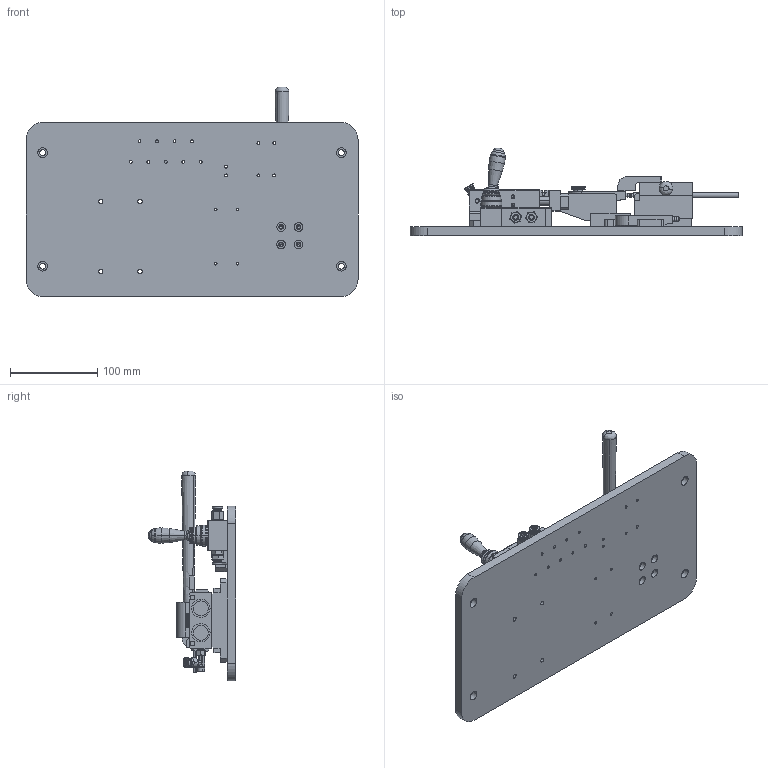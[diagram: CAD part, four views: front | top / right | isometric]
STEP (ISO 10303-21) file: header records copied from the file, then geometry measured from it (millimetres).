
FILE_DESCRIPTION (( 'STEP AP214' ), '1' );
FILE_NAME ('GZ27.00_V1源倛概4-6脣奪馱蚾.STEP', '2021-04-11T12:41:44', ( 'hp' ), ( '' ), 'SwSTEP 2.0', 'SolidWorks 2017', '' );
FILE_SCHEMA (( 'AUTOMOTIVE_DESIGN' ));
Length unit declared in the file: millimetre
Products named in the file (29): 絳砃揤輸; 奻揤輸; 盓傅啣; BSLM01; 狟揤輸; PC601; 嘐隅釱; NKOSC5-16-16_NKOSC5-16-16; 賑雄菁釱-03; 癹弇輸2; ァ詰菁釱; 癹弇輸1; 菁釱-V02; 4-6諉芛郪磁02; 絳砃輸; LS-JT4-6-T-2; 菁釱; 4-6諉芛И輸02; 忒梟; TR20X10S; _TR20-10_fr; GZ27.00_V1源倛概4-6脣奪馱蚾; _TR20-1010_b; 4-6諉芛郪磁; 4-6諉芛И輸; 6-4; ァ奪; PTL6M5A-M; 4HA21006
Assembly tree (34 placements, depth 3):
  GZ27.00_V1源倛概4-6脣奪馱蚾
    忒梟
    菁釱
    絳砃輸  x2
    菁釱-V02
    ァ詰菁釱
    賑雄菁釱-03
    嘐隅釱
    狟揤輸
    盓傅啣
    奻揤輸
    絳砃揤輸
    4HA21006
    PTL6M5A-M  x2
    ァ奪
    4-6諉芛郪磁
      6-4
      4-6諉芛И輸
    TR20X10S
      _TR20-1010_b
      _TR20-10_fr
    4-6諉芛郪磁02
      4-6諉芛И輸02
      LS-JT4-6-T-2
    癹弇輸1  x2
    癹弇輸2
    NKOSC5-16-16_NKOSC5-16-16
    PC601  x3
    BSLM01  x2
Bounding box: 380 x 100.34 x 240 mm (x, y, z)
Volume: 1394635.2 mm3; surface area: 364613.5 mm2
Topology: 30 solids, 33 shells, 2380 faces, 6005 edges, 3848 vertices
Faces by surface type: plane 1041, cylinder 592, bspline 380, cone 353, torus 14
Entity records: 87033 total; most frequent: CARTESIAN_POINT 28476, ORIENTED_EDGE 10524, DIRECTION 9191, EDGE_CURVE 5264, VERTEX_POINT 3412, AXIS2_PLACEMENT_3D 3147, VECTOR 2897, LINE 2897
